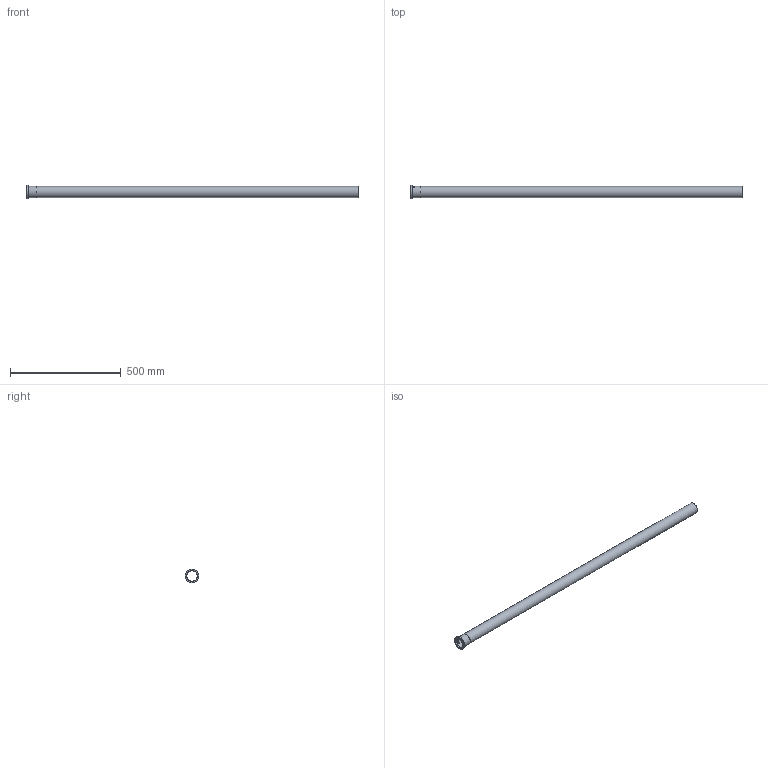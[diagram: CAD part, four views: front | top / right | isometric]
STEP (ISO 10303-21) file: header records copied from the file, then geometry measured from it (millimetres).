
FILE_DESCRIPTION((''),'2;1');
FILE_NAME('I:\WATTS\3D_CAD\3D_CAD_Models\Blucher_Drains\P_StraightPipe\WebsiteFiles\3D\STEP\P2-4.9-316.stp','2009-12-02T13:28:52',('menesek'),(''),'Autodesk Inventor 2010','Autodesk Inventor 2010','');
FILE_SCHEMA(('AUTOMOTIVE_DESIGN { 1 0 10303 214 1 1 1 1 }'));
Length unit declared in the file: inch
Products named in the file (1): P2-4.9-316
Bounding box: 1500 x 60.96 x 60.96 mm (x, y, z)
Volume: 243230.7 mm3; surface area: 464611.3 mm2
Topology: 1 solids, 1 shells, 109 faces, 285 edges, 190 vertices
Faces by surface type: plane 59, bspline 34, cylinder 16
Full cylindrical faces by diameter (mm): 48.006 x1, 50.038 x1, 50.8 x2, 60.96 x1
Entity records: 13765 total; most frequent: CARTESIAN_POINT 11387, ORIENTED_EDGE 548, DIRECTION 356, EDGE_CURVE 274, VERTEX_POINT 186, EDGE_LOOP 128, AXIS2_PLACEMENT_3D 120, VECTOR 116
